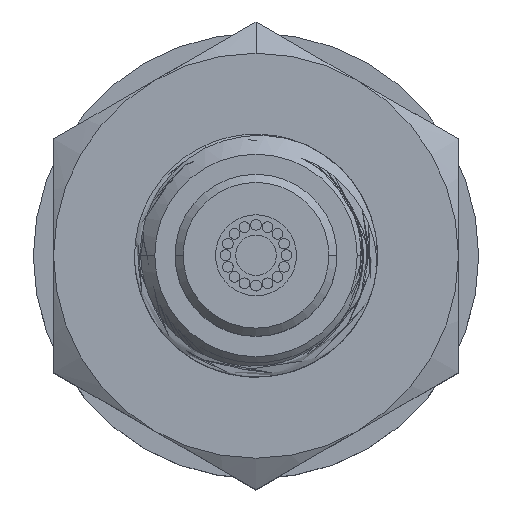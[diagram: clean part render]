
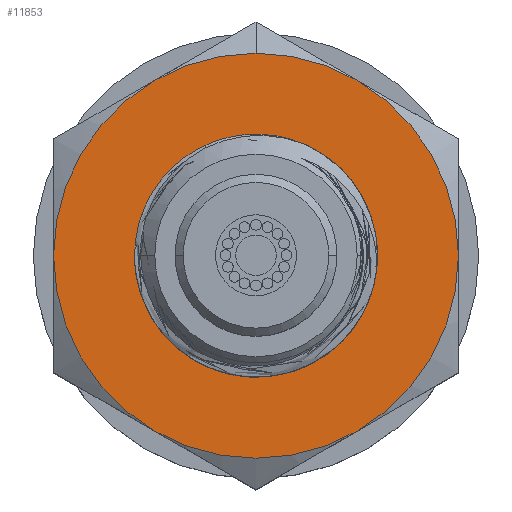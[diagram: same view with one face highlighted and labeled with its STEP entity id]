
A CAD part, top view. The second image highlights one B-rep face of the part: STEP entity #11853.
In plain terms, the highlighted planar face has unit normal (0, 0, 1).
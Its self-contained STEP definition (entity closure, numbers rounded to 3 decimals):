
#56 = EDGE_LOOP ( 'NONE', ( #2294, #8131, #7579, #11614, #8826, #10027, #13677 ) ) ;
#231 = EDGE_CURVE ( 'NONE', #9526, #11353, #5783, .T. ) ;
#273 = B_SPLINE_CURVE_WITH_KNOTS ( 'NONE', 3,
 ( #7352, #11541, #5120, #2066 ),
 .UNSPECIFIED., .F., .F.,
 ( 4, 4 ),
 ( 0., 0. ),
 .UNSPECIFIED. ) ;
#678 = CARTESIAN_POINT ( 'NONE',  ( -6.623, 9.567, 6.38 ) ) ;
#692 = VERTEX_POINT ( 'NONE', #1341 ) ;
#710 = ORIENTED_EDGE ( 'NONE', *, *, #13191, .T. ) ;
#781 = CARTESIAN_POINT ( 'NONE',  ( -7.015, 7.124, 6.38 ) ) ;
#827 = CARTESIAN_POINT ( 'NONE',  ( -6.57, 8.207, 6.38 ) ) ;
#877 = CARTESIAN_POINT ( 'NONE',  ( -7.128, 6.965, 6.38 ) ) ;
#1034 = CIRCLE ( 'NONE', #2938, 5. ) ;
#1246 = CARTESIAN_POINT ( 'NONE',  ( -12.513, 8.787, 6.38 ) ) ;
#1308 = CIRCLE ( 'NONE', #10130, 5. ) ;
#1341 = CARTESIAN_POINT ( 'NONE',  ( -14.519, 8.787, 6.38 ) ) ;
#1497 = EDGE_CURVE ( 'NONE', #3531, #5931, #4816, .T. ) ;
#1533 = EDGE_CURVE ( 'NONE', #11353, #4375, #273, .T. ) ;
#1801 = CARTESIAN_POINT ( 'NONE',  ( -6.513, 8.791, 6.38 ) ) ;
#1834 = AXIS2_PLACEMENT_3D ( 'NONE', #6203, #8474, #6398 ) ;
#1839 = DIRECTION ( 'NONE',  ( 1., 0., 0. ) ) ;
#1953 = CARTESIAN_POINT ( 'NONE',  ( -6.614, 8.014, 6.38 ) ) ;
#2066 = CARTESIAN_POINT ( 'NONE',  ( -6.652, 9.647, 6.38 ) ) ;
#2294 = ORIENTED_EDGE ( 'NONE', *, *, #8459, .T. ) ;
#2574 = PLANE ( 'NONE',  #4089 ) ;
#2809 = CIRCLE ( 'NONE', #4201, 2.994 ) ;
#2858 = CARTESIAN_POINT ( 'NONE',  ( -7.019, 4.457, 6.38 ) ) ;
#2913 = CIRCLE ( 'NONE', #8327, 5. ) ;
#2929 = CARTESIAN_POINT ( 'NONE',  ( -8.538, 5.945, 6.38 ) ) ;
#2938 = AXIS2_PLACEMENT_3D ( 'NONE', #9923, #6725, #13187 ) ;
#2962 = DIRECTION ( 'NONE',  ( 1., 0., 0. ) ) ;
#3331 = CARTESIAN_POINT ( 'NONE',  ( -9.519, 8.787, 6.38 ) ) ;
#3358 = CARTESIAN_POINT ( 'NONE',  ( -12.019, 4.457, 6.38 ) ) ;
#3415 = CARTESIAN_POINT ( 'NONE',  ( -8.757, 5.888, 6.38 ) ) ;
#3531 = VERTEX_POINT ( 'NONE', #11655 ) ;
#3936 = EDGE_CURVE ( 'NONE', #12405, #9526, #9046, .T. ) ;
#3958 = CARTESIAN_POINT ( 'NONE',  ( -7.528, 6.534, 6.38 ) ) ;
#4042 = DIRECTION ( 'NONE',  ( 0., 0., 1. ) ) ;
#4089 = AXIS2_PLACEMENT_3D ( 'NONE', #11182, #13249, #11138 ) ;
#4201 = AXIS2_PLACEMENT_3D ( 'NONE', #12604, #5054, #12504 ) ;
#4284 = EDGE_CURVE ( 'NONE', #5931, #9637, #1308, .T. ) ;
#4365 = DIRECTION ( 'NONE',  ( 1., 0., 0. ) ) ;
#4375 = VERTEX_POINT ( 'NONE', #4433 ) ;
#4381 = DIRECTION ( 'NONE',  ( 0., 0., 1. ) ) ;
#4399 = CARTESIAN_POINT ( 'NONE',  ( -8.729, 5.893, 6.38 ) ) ;
#4433 = CARTESIAN_POINT ( 'NONE',  ( -6.652, 9.647, 6.38 ) ) ;
#4691 = FACE_OUTER_BOUND ( 'NONE', #56, .T. ) ;
#4816 = CIRCLE ( 'NONE', #1834, 5. ) ;
#4853 = DIRECTION ( 'NONE',  ( 0., 0., 1. ) ) ;
#4905 = CARTESIAN_POINT ( 'NONE',  ( -9.519, 8.787, 6.38 ) ) ;
#4924 = VERTEX_POINT ( 'NONE', #13057 ) ;
#5005 = CARTESIAN_POINT ( 'NONE',  ( -8.353, 6.016, 6.38 ) ) ;
#5054 = DIRECTION ( 'NONE',  ( 0., 0., -1. ) ) ;
#5120 = CARTESIAN_POINT ( 'NONE',  ( -6.642, 9.621, 6.38 ) ) ;
#5406 = CARTESIAN_POINT ( 'NONE',  ( -8.785, 5.882, 6.38 ) ) ;
#5482 = CARTESIAN_POINT ( 'NONE',  ( -9.519, 8.787, 6.38 ) ) ;
#5715 = DIRECTION ( 'NONE',  ( 1., 0., 0. ) ) ;
#5783 = B_SPLINE_CURVE_WITH_KNOTS ( 'NONE', 3,
 ( #11584, #2929, #5005, #12501, #13667, #3958, #13612, #877, #781, #8410, #7140, #1953, #827, #9491, #1801, #7191, #8309, #678 ),
 .UNSPECIFIED., .F., .F.,
 ( 4, 2, 2, 2, 2, 2, 2, 2, 4 ),
 ( 0., 0.001, 0.001, 0.002, 0.002, 0.003, 0.004, 0.004, 0.005 ),
 .UNSPECIFIED. ) ;
#5883 = EDGE_CURVE ( 'NONE', #13136, #7090, #2913, .T. ) ;
#5931 = VERTEX_POINT ( 'NONE', #12079 ) ;
#6203 = CARTESIAN_POINT ( 'NONE',  ( -9.519, 8.787, 6.38 ) ) ;
#6352 = EDGE_CURVE ( 'NONE', #692, #13136, #9482, .T. ) ;
#6380 = CARTESIAN_POINT ( 'NONE',  ( -8.729, 5.893, 6.38 ) ) ;
#6398 = DIRECTION ( 'NONE',  ( 1., 0., 0. ) ) ;
#6569 = DIRECTION ( 'NONE',  ( 1., 0., 0. ) ) ;
#6725 = DIRECTION ( 'NONE',  ( 0., 0., 1. ) ) ;
#6820 = AXIS2_PLACEMENT_3D ( 'NONE', #9429, #4042, #2962 ) ;
#7090 = VERTEX_POINT ( 'NONE', #2858 ) ;
#7140 = CARTESIAN_POINT ( 'NONE',  ( -6.738, 7.645, 6.38 ) ) ;
#7191 = CARTESIAN_POINT ( 'NONE',  ( -6.539, 9.18, 6.38 ) ) ;
#7352 = CARTESIAN_POINT ( 'NONE',  ( -6.623, 9.567, 6.38 ) ) ;
#7476 = DIRECTION ( 'NONE',  ( 1., 0., 0. ) ) ;
#7579 = ORIENTED_EDGE ( 'NONE', *, *, #1497, .T. ) ;
#7644 = ORIENTED_EDGE ( 'NONE', *, *, #3936, .F. ) ;
#8058 = AXIS2_PLACEMENT_3D ( 'NONE', #3331, #10826, #4365 ) ;
#8131 = ORIENTED_EDGE ( 'NONE', *, *, #13333, .T. ) ;
#8309 = CARTESIAN_POINT ( 'NONE',  ( -6.571, 9.376, 6.38 ) ) ;
#8327 = AXIS2_PLACEMENT_3D ( 'NONE', #5482, #4381, #6569 ) ;
#8410 = CARTESIAN_POINT ( 'NONE',  ( -6.819, 7.466, 6.38 ) ) ;
#8459 = EDGE_CURVE ( 'NONE', #7090, #4924, #1034, .T. ) ;
#8474 = DIRECTION ( 'NONE',  ( 0., 0., 1. ) ) ;
#8550 = CIRCLE ( 'NONE', #12560, 2.994 ) ;
#8826 = ORIENTED_EDGE ( 'NONE', *, *, #10955, .T. ) ;
#9046 = B_SPLINE_CURVE_WITH_KNOTS ( 'NONE', 3,
 ( #10769, #5406, #3415, #4399 ),
 .UNSPECIFIED., .F., .F.,
 ( 4, 4 ),
 ( 0.005, 0.006 ),
 .UNSPECIFIED. ) ;
#9125 = ORIENTED_EDGE ( 'NONE', *, *, #1533, .F. ) ;
#9260 = AXIS2_PLACEMENT_3D ( 'NONE', #4905, #4853, #1839 ) ;
#9429 = CARTESIAN_POINT ( 'NONE',  ( -9.519, 8.787, 6.38 ) ) ;
#9482 = CIRCLE ( 'NONE', #6820, 5. ) ;
#9491 = CARTESIAN_POINT ( 'NONE',  ( -6.519, 8.596, 6.38 ) ) ;
#9526 = VERTEX_POINT ( 'NONE', #6380 ) ;
#9637 = VERTEX_POINT ( 'NONE', #9733 ) ;
#9733 = CARTESIAN_POINT ( 'NONE',  ( -12.019, 13.117, 6.38 ) ) ;
#9847 = CARTESIAN_POINT ( 'NONE',  ( -8.813, 5.878, 6.38 ) ) ;
#9923 = CARTESIAN_POINT ( 'NONE',  ( -9.519, 8.787, 6.38 ) ) ;
#10027 = ORIENTED_EDGE ( 'NONE', *, *, #6352, .T. ) ;
#10130 = AXIS2_PLACEMENT_3D ( 'NONE', #11625, #13896, #7476 ) ;
#10238 = CIRCLE ( 'NONE', #8058, 5. ) ;
#10651 = ORIENTED_EDGE ( 'NONE', *, *, #231, .F. ) ;
#10769 = CARTESIAN_POINT ( 'NONE',  ( -8.813, 5.878, 6.38 ) ) ;
#10826 = DIRECTION ( 'NONE',  ( 0., 0., 1. ) ) ;
#10955 = EDGE_CURVE ( 'NONE', #9637, #692, #10238, .T. ) ;
#11062 = DIRECTION ( 'NONE',  ( 0., 0., -1. ) ) ;
#11138 = DIRECTION ( 'NONE',  ( 1., 0., 0. ) ) ;
#11182 = CARTESIAN_POINT ( 'NONE',  ( -9.519, 8.787, 6.38 ) ) ;
#11353 = VERTEX_POINT ( 'NONE', #13420 ) ;
#11541 = CARTESIAN_POINT ( 'NONE',  ( -6.632, 9.594, 6.38 ) ) ;
#11584 = CARTESIAN_POINT ( 'NONE',  ( -8.729, 5.893, 6.38 ) ) ;
#11614 = ORIENTED_EDGE ( 'NONE', *, *, #4284, .T. ) ;
#11625 = CARTESIAN_POINT ( 'NONE',  ( -9.519, 8.787, 6.38 ) ) ;
#11655 = CARTESIAN_POINT ( 'NONE',  ( -7.019, 13.117, 6.38 ) ) ;
#11853 = ADVANCED_FACE ( 'NONE', ( #13269, #4691 ), #2574, .T. ) ;
#12079 = CARTESIAN_POINT ( 'NONE',  ( -9.519, 13.787, 6.38 ) ) ;
#12136 = CARTESIAN_POINT ( 'NONE',  ( -9.519, 8.787, 6.38 ) ) ;
#12183 = VERTEX_POINT ( 'NONE', #1246 ) ;
#12405 = VERTEX_POINT ( 'NONE', #9847 ) ;
#12501 = CARTESIAN_POINT ( 'NONE',  ( -8.003, 6.191, 6.38 ) ) ;
#12504 = DIRECTION ( 'NONE',  ( 1., 0., 0. ) ) ;
#12560 = AXIS2_PLACEMENT_3D ( 'NONE', #12136, #11062, #5715 ) ;
#12604 = CARTESIAN_POINT ( 'NONE',  ( -9.519, 8.787, 6.38 ) ) ;
#12848 = EDGE_CURVE ( 'NONE', #12183, #4375, #2809, .T. ) ;
#13057 = CARTESIAN_POINT ( 'NONE',  ( -4.519, 8.787, 6.38 ) ) ;
#13073 = CIRCLE ( 'NONE', #9260, 5. ) ;
#13136 = VERTEX_POINT ( 'NONE', #3358 ) ;
#13187 = DIRECTION ( 'NONE',  ( 0., -1., 0. ) ) ;
#13191 = EDGE_CURVE ( 'NONE', #12405, #12183, #8550, .T. ) ;
#13249 = DIRECTION ( 'NONE',  ( 0., 0., 1. ) ) ;
#13269 = FACE_BOUND ( 'NONE', #13457, .T. ) ;
#13296 = ORIENTED_EDGE ( 'NONE', *, *, #12848, .T. ) ;
#13333 = EDGE_CURVE ( 'NONE', #4924, #3531, #13073, .T. ) ;
#13420 = CARTESIAN_POINT ( 'NONE',  ( -6.623, 9.567, 6.38 ) ) ;
#13457 = EDGE_LOOP ( 'NONE', ( #7644, #710, #13296, #9125, #10651 ) ) ;
#13612 = CARTESIAN_POINT ( 'NONE',  ( -7.384, 6.671, 6.38 ) ) ;
#13667 = CARTESIAN_POINT ( 'NONE',  ( -7.838, 6.295, 6.38 ) ) ;
#13677 = ORIENTED_EDGE ( 'NONE', *, *, #5883, .T. ) ;
#13896 = DIRECTION ( 'NONE',  ( 0., 0., 1. ) ) ;
